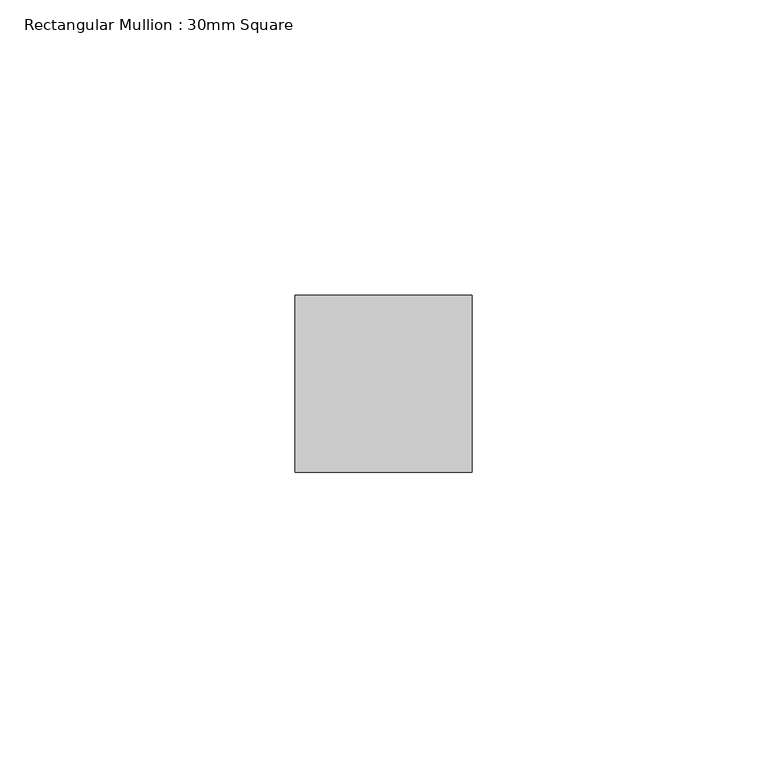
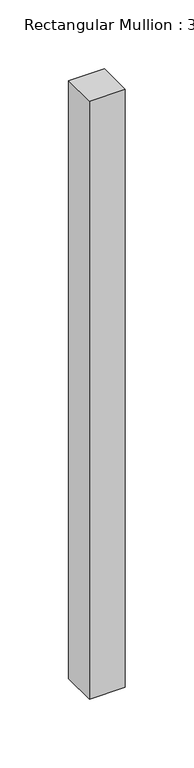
"""IFC4 building model written with IfcOpenShell, lengths in millimetres: member geometry, Rectangular Mullion : 30mm Square."""

from ifc_helpers import new_model, si_unit, frame, origin, place, context, project, spatial, polyline, outline, extrude, source, transform, mapped, element, save


def rectangular_mullion_30mm_square_0eed9e45(model_context):
    return source(origin(), model_context, "Body", "SweptSolid", [
        extrude(outline(polyline([(15.0, 15.0), (15.0, -15.0), (-15.0, -15.0), (-15.0, 15.0), (15.0, 15.0)])), frame((0.0, 0.0, -530.0), z_axis=(0.0, 0.0, 1.0), x_axis=(1.0, 0.0, 0.0)), (0.0, 0.0, 1.0), 530.0),
    ])


if __name__ == "__main__":
    model = new_model("IFC4")
    model_context = context("Model", 3, world=origin())
    ifc_project = project(units=[si_unit("LENGTHUNIT", "METRE", prefix="MILLI")], contexts=[model_context])
    site = spatial("IfcSite", under=ifc_project)
    building = spatial("IfcBuilding", under=site)
    placement = place(None, origin())
    rectangular_mullion_30mm_square_shape = rectangular_mullion_30mm_square_0eed9e45(model_context)
    element("IfcMember", 1, ObjectType="Rectangular Mullion : 30mm Square", at=placement, inside=building, context=model_context, shape_type="MappedRepresentation", body=[
        mapped(rectangular_mullion_30mm_square_shape, transform((0.0, 0.0, 0.0), x_axis=(1.0, 0.0, 0.0), y_axis=(0.0, 1.0, 0.0), z_axis=(0.0, 0.0, 1.0))),
    ])
    save(model, "model.ifc")
